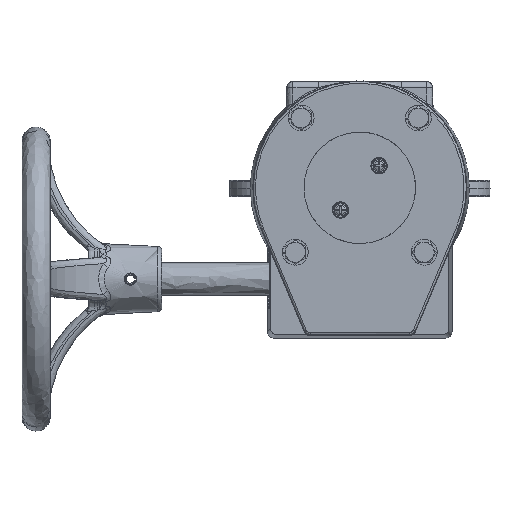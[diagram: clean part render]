
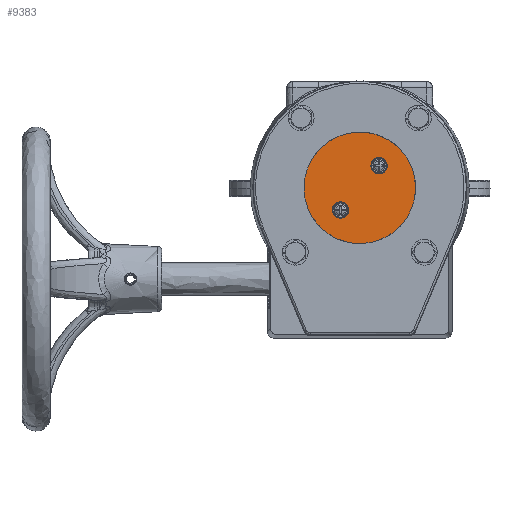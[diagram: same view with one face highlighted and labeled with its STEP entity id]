
A CAD part, top view. The second image highlights one B-rep face of the part: STEP entity #9383.
In plain terms, the highlighted free-form (B-spline) face has degree [1, 1] with [2, 2] control points.
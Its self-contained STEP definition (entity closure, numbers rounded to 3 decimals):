
#6675=EDGE_CURVE('',#19189,#19190,#19191,.T.);
#7183=EDGE_CURVE('',#20093,#20094,#20095,.T.);
#9383=ADVANCED_FACE('',(#23732,#23733,#23734),#23735,.T.);
#13549=EDGE_CURVE('',#19190,#19189,#29538,.T.);
#14633=EDGE_CURVE('',#29715,#29489,#30941,.T.);
#18445=EDGE_CURVE('',#29489,#29715,#35629,.T.);
#18991=EDGE_CURVE('',#20094,#20093,#36278,.T.);
#19189=VERTEX_POINT('',#36737);
#19190=VERTEX_POINT('',#36738);
#19191=(B_SPLINE_CURVE(3,(#36740,#36741,#36742,#36743),.UNSPECIFIED.,.F.,.F.)B_SPLINE_CURVE_WITH_KNOTS((4,4),(0.0,3.142),.UNSPECIFIED.)RATIONAL_B_SPLINE_CURVE((1.0,0.333,0.333,1.0))BOUNDED_CURVE()REPRESENTATION_ITEM('')GEOMETRIC_REPRESENTATION_ITEM()CURVE());
#20093=VERTEX_POINT('',#41302);
#20094=VERTEX_POINT('',#41303);
#20095=(B_SPLINE_CURVE(3,(#41305,#41306,#41307,#41308),.UNSPECIFIED.,.F.,.F.)B_SPLINE_CURVE_WITH_KNOTS((4,4),(0.0,3.142),.UNSPECIFIED.)RATIONAL_B_SPLINE_CURVE((1.0,0.333,0.333,1.0))BOUNDED_CURVE()REPRESENTATION_ITEM('')GEOMETRIC_REPRESENTATION_ITEM()CURVE());
#23732=FACE_OUTER_BOUND('',#59557,.T.);
#23733=FACE_BOUND('',#59558,.T.);
#23734=FACE_BOUND('',#59559,.T.);
#23735=B_SPLINE_SURFACE_WITH_KNOTS('',1,1,((#59560,#59561),(#59562,#59563)),.UNSPECIFIED.,.F.,.F.,.F.,(2,2),(2,2),(-27.501,27.501),(17.499,72.501),.UNSPECIFIED.);
#29489=VERTEX_POINT('',#91288);
#29538=(B_SPLINE_CURVE(3,(#91669,#91670,#91671,#91672),.UNSPECIFIED.,.F.,.F.)B_SPLINE_CURVE_WITH_KNOTS((4,4),(0.0,3.142),.UNSPECIFIED.)RATIONAL_B_SPLINE_CURVE((1.0,0.333,0.333,1.0))BOUNDED_CURVE()REPRESENTATION_ITEM('')GEOMETRIC_REPRESENTATION_ITEM()CURVE());
#29715=VERTEX_POINT('',#93693);
#30941=B_SPLINE_CURVE_WITH_KNOTS('',3,(#102051,#102052,#102053,#102054,#102055,#102056,#102057,#102058,#102059,#102060,#102061,#102062,#102063,#102064,#102065,#102066,#102067,#102068,#102069,#102070,#102071,#102072,#102073,#102074,#102075,#102076,#102077,#102078,#102079,#102080),.UNSPECIFIED.,.F.,.F.,(4,2,2,2,2,2,2,2,2,2,2,2,2,2,4),(0.0,0.393,0.589,0.785,0.982,1.178,1.374,1.571,1.767,1.963,2.16,2.356,2.553,2.749,3.142),.UNSPECIFIED.);
#35629=B_SPLINE_CURVE_WITH_KNOTS('',3,(#131909,#131910,#131911,#131912,#131913,#131914,#131915,#131916,#131917,#131918,#131919,#131920,#131921,#131922,#131923,#131924,#131925,#131926,#131927,#131928,#131929,#131930,#131931,#131932,#131933,#131934,#131935,#131936,#131937,#131938),.UNSPECIFIED.,.F.,.F.,(4,2,2,2,2,2,2,2,2,2,2,2,2,2,4),(0.0,0.393,0.589,0.785,0.982,1.178,1.374,1.571,1.767,1.963,2.16,2.356,2.553,2.749,3.142),.UNSPECIFIED.);
#36278=(B_SPLINE_CURVE(3,(#136479,#136480,#136481,#136482),.UNSPECIFIED.,.F.,.F.)B_SPLINE_CURVE_WITH_KNOTS((4,4),(0.0,3.142),.UNSPECIFIED.)RATIONAL_B_SPLINE_CURVE((1.0,0.333,0.333,1.0))BOUNDED_CURVE()REPRESENTATION_ITEM('')GEOMETRIC_REPRESENTATION_ITEM()CURVE());
#36737=CARTESIAN_POINT('',(-7.272,-10.742,205.3));
#36738=CARTESIAN_POINT('',(-11.754,-11.144,205.3));
#36740=CARTESIAN_POINT('',(-7.272,-10.742,205.3));
#36741=CARTESIAN_POINT('',(-7.674,-6.26,205.3));
#36742=CARTESIAN_POINT('',(-12.156,-6.662,205.3));
#36743=CARTESIAN_POINT('',(-11.754,-11.144,205.3));
#41302=CARTESIAN_POINT('',(11.754,11.144,205.3));
#41303=CARTESIAN_POINT('',(7.272,10.742,205.3));
#41305=CARTESIAN_POINT('',(11.754,11.144,205.3));
#41306=CARTESIAN_POINT('',(11.352,15.626,205.3));
#41307=CARTESIAN_POINT('',(6.87,15.224,205.3));
#41308=CARTESIAN_POINT('',(7.272,10.742,205.3));
#59557=EDGE_LOOP('',(#140480,#140481));
#59558=EDGE_LOOP('',(#140482,#140483));
#59559=EDGE_LOOP('',(#140484,#140485));
#59560=CARTESIAN_POINT('',(-29.847,24.936,205.3));
#59561=CARTESIAN_POINT('',(24.936,29.847,205.3));
#59562=CARTESIAN_POINT('',(-24.936,-29.847,205.3));
#59563=CARTESIAN_POINT('',(29.847,-24.936,205.3));
#91288=CARTESIAN_POINT('',(2.455,-27.39,205.3));
#91669=CARTESIAN_POINT('',(-11.754,-11.144,205.3));
#91670=CARTESIAN_POINT('',(-11.352,-15.626,205.3));
#91671=CARTESIAN_POINT('',(-6.87,-15.224,205.3));
#91672=CARTESIAN_POINT('',(-7.272,-10.742,205.3));
#93693=CARTESIAN_POINT('',(-2.455,27.39,205.3));
#102051=CARTESIAN_POINT('',(-2.455,27.39,205.3));
#102052=CARTESIAN_POINT('',(-6.041,27.072,205.3));
#102053=CARTESIAN_POINT('',(-9.561,26.035,205.3));
#102054=CARTESIAN_POINT('',(-14.345,23.531,205.3));
#102055=CARTESIAN_POINT('',(-15.857,22.54,205.3));
#102056=CARTESIAN_POINT('',(-18.66,20.28,205.3));
#102057=CARTESIAN_POINT('',(-19.95,19.013,205.3));
#102058=CARTESIAN_POINT('',(-22.258,16.25,205.3));
#102059=CARTESIAN_POINT('',(-23.276,14.755,205.3));
#102060=CARTESIAN_POINT('',(-25.001,11.596,205.3));
#102061=CARTESIAN_POINT('',(-25.707,9.931,205.3));
#102062=CARTESIAN_POINT('',(-26.782,6.496,205.3));
#102063=CARTESIAN_POINT('',(-27.151,4.725,205.3));
#102064=CARTESIAN_POINT('',(-27.535,1.146,205.3));
#102065=CARTESIAN_POINT('',(-27.551,-0.663,205.3));
#102066=CARTESIAN_POINT('',(-27.229,-4.248,205.3));
#102067=CARTESIAN_POINT('',(-26.892,-6.025,205.3));
#102068=CARTESIAN_POINT('',(-25.877,-9.478,205.3));
#102069=CARTESIAN_POINT('',(-25.2,-11.155,205.3));
#102070=CARTESIAN_POINT('',(-23.531,-14.345,205.3));
#102071=CARTESIAN_POINT('',(-22.54,-15.857,205.3));
#102072=CARTESIAN_POINT('',(-20.28,-18.66,205.3));
#102073=CARTESIAN_POINT('',(-19.013,-19.95,205.3));
#102074=CARTESIAN_POINT('',(-16.25,-22.258,205.3));
#102075=CARTESIAN_POINT('',(-14.755,-23.276,205.3));
#102076=CARTESIAN_POINT('',(-11.596,-25.,205.3));
#102077=CARTESIAN_POINT('',(-9.931,-25.707,205.3));
#102078=CARTESIAN_POINT('',(-4.778,-27.32,205.3));
#102079=CARTESIAN_POINT('',(-1.13,-27.715,205.3));
#102080=CARTESIAN_POINT('',(2.455,-27.39,205.3));
#131909=CARTESIAN_POINT('',(2.455,-27.39,205.3));
#131910=CARTESIAN_POINT('',(6.041,-27.072,205.3));
#131911=CARTESIAN_POINT('',(9.561,-26.035,205.3));
#131912=CARTESIAN_POINT('',(14.345,-23.531,205.3));
#131913=CARTESIAN_POINT('',(15.857,-22.54,205.3));
#131914=CARTESIAN_POINT('',(18.66,-20.28,205.3));
#131915=CARTESIAN_POINT('',(19.95,-19.013,205.3));
#131916=CARTESIAN_POINT('',(22.258,-16.25,205.3));
#131917=CARTESIAN_POINT('',(23.276,-14.755,205.3));
#131918=CARTESIAN_POINT('',(25.001,-11.596,205.3));
#131919=CARTESIAN_POINT('',(25.707,-9.931,205.3));
#131920=CARTESIAN_POINT('',(26.782,-6.496,205.3));
#131921=CARTESIAN_POINT('',(27.151,-4.725,205.3));
#131922=CARTESIAN_POINT('',(27.535,-1.146,205.3));
#131923=CARTESIAN_POINT('',(27.551,0.663,205.3));
#131924=CARTESIAN_POINT('',(27.229,4.248,205.3));
#131925=CARTESIAN_POINT('',(26.892,6.025,205.3));
#131926=CARTESIAN_POINT('',(25.877,9.478,205.3));
#131927=CARTESIAN_POINT('',(25.2,11.155,205.3));
#131928=CARTESIAN_POINT('',(23.531,14.345,205.3));
#131929=CARTESIAN_POINT('',(22.54,15.857,205.3));
#131930=CARTESIAN_POINT('',(20.28,18.66,205.3));
#131931=CARTESIAN_POINT('',(19.013,19.95,205.3));
#131932=CARTESIAN_POINT('',(16.25,22.258,205.3));
#131933=CARTESIAN_POINT('',(14.755,23.276,205.3));
#131934=CARTESIAN_POINT('',(11.596,25.,205.3));
#131935=CARTESIAN_POINT('',(9.931,25.707,205.3));
#131936=CARTESIAN_POINT('',(4.778,27.32,205.3));
#131937=CARTESIAN_POINT('',(1.13,27.715,205.3));
#131938=CARTESIAN_POINT('',(-2.455,27.39,205.3));
#136479=CARTESIAN_POINT('',(7.272,10.742,205.3));
#136480=CARTESIAN_POINT('',(7.674,6.26,205.3));
#136481=CARTESIAN_POINT('',(12.156,6.662,205.3));
#136482=CARTESIAN_POINT('',(11.754,11.144,205.3));
#140480=ORIENTED_EDGE('',*,*,#18445,.T.);
#140481=ORIENTED_EDGE('',*,*,#14633,.T.);
#140482=ORIENTED_EDGE('',*,*,#18991,.F.);
#140483=ORIENTED_EDGE('',*,*,#7183,.F.);
#140484=ORIENTED_EDGE('',*,*,#13549,.F.);
#140485=ORIENTED_EDGE('',*,*,#6675,.F.);
